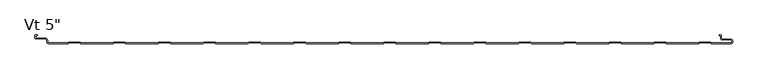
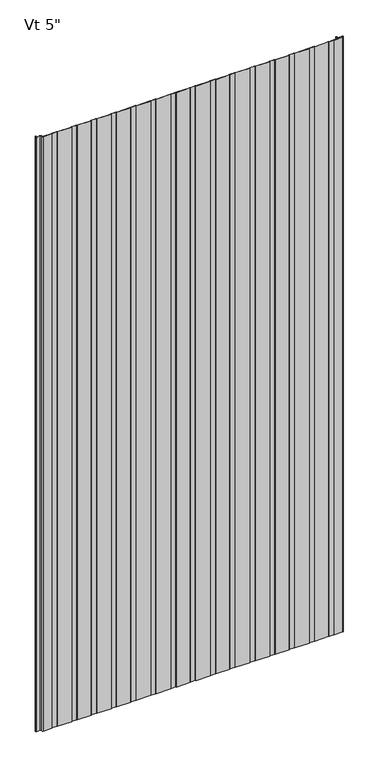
"""IFC4 building model written with IfcOpenShell, lengths in millimetres: plate geometry."""

from ifc_helpers import new_model, si_unit, frame, origin, place, context, project, spatial, polyline, circle_curve, source, transform, mapped, element, save
from ifc_brep_helpers import plane_surface, cylinder_surface, revolved_surface, advanced_brep


def plate_d803b4ad(model_context):
    return source(origin(), model_context, "Body", "AdvancedBrep", [
        advanced_brep(
        [(390.6883592, -127.0, 2400.0), (445.2678137, -127.0, 2400.0), (446.3403385, -125.8088405, 2400.0), (465.2384546, -125.8088405, 2400.0), (466.3109794, -127.0, 2400.0), (520.890434, -127.0, 2400.0), (521.9629588, -125.8088405, 2400.0), (540.8610749, -125.8088405, 2400.0), (541.9335958, -126.9999956, 2400.0), (574.5475652, -126.9999956, 2400.0), (577.5248337, -124.0227271, 2400.0), (577.5248337, -122.9806285, 2400.0), (574.5475652, -120.00336, 2400.0), (560.3591801, -120.00336, 2400.0), (558.7713036, -118.4154834, 2400.0), (558.7713036, -114.0950653, 2400.0), (557.1304042, -112.5065979, 2400.0), (554.7857432, -112.5065979, 2400.0), (554.7857432, -113.5060718, 2400.0), (557.1628365, -113.5060718, 2400.0), (557.7713037, -114.0950653, 2400.0), (557.7713037, -118.4154834, 2400.0), (560.3591801, -121.00336, 2400.0), (574.5475652, -121.00336, 2400.0), (576.5248337, -122.9806285, 2400.0), (576.5248337, -124.0227271, 2400.0), (574.5475652, -125.9999956, 2400.0), (542.3760351, -125.9999956, 2400.0), (541.3035142, -124.8088405, 2400.0), (521.5205195, -124.8088405, 2400.0), (520.4479947, -126.0, 2400.0), (466.7534187, -126.0, 2400.0), (465.6808939, -124.8088405, 2400.0), (445.8978992, -124.8088405, 2400.0), (444.8253744, -126.0, 2400.0), (391.1307985, -126.0, 2400.0), (390.0582736, -124.8088405, 2400.0), (370.275279, -124.8088405, 2400.0), (369.2027541, -126.0, 2400.0), (315.5081782, -126.0, 2400.0), (314.4356534, -124.8088405, 2400.0), (294.6526587, -124.8088405, 2400.0), (293.5801339, -126.0, 2400.0), (239.885558, -126.0, 2400.0), (238.8130331, -124.8088405, 2400.0), (219.0300384, -124.8088405, 2400.0), (217.9575136, -126.0, 2400.0), (164.2629377, -126.0, 2400.0), (163.1904129, -124.8088405, 2400.0), (143.4074182, -124.8088405, 2400.0), (142.3348933, -126.0, 2400.0), (88.6403174, -126.0, 2400.0), (87.5677926, -124.8088405, 2400.0), (67.7847979, -124.8088405, 2400.0), (66.7122731, -126.0, 2400.0), (13.0176972, -126.0, 2400.0), (11.9451723, -124.8088405, 2400.0), (-7.8378224, -124.8088405, 2400.0), (-8.9103472, -126.0, 2400.0), (-62.6049231, -126.0, 2400.0), (-63.6774479, -124.8088405, 2400.0), (-83.4604426, -124.8088405, 2400.0), (-84.5329675, -126.0, 2400.0), (-138.2275434, -126.0, 2400.0), (-139.3000682, -124.8088405, 2400.0), (-159.0830629, -124.8088405, 2400.0), (-160.1555877, -126.0, 2400.0), (-213.8501636, -126.0, 2400.0), (-214.9226885, -124.8088405, 2400.0), (-234.7056831, -124.8088405, 2400.0), (-235.778208, -126.0, 2400.0), (-289.4727839, -126.0, 2400.0), (-290.5453087, -124.8088405, 2400.0), (-310.3283034, -124.8088405, 2400.0), (-311.4008282, -126.0, 2400.0), (-365.0954042, -126.0, 2400.0), (-366.167929, -124.8088405, 2400.0), (-385.9509237, -124.8088405, 2400.0), (-387.0234485, -126.0, 2400.0), (-440.7180244, -126.0, 2400.0), (-441.7905493, -124.8088405, 2400.0), (-461.5735439, -124.8088405, 2400.0), (-462.6460688, -126.0, 2400.0), (-516.3406447, -126.0, 2400.0), (-517.4131695, -124.8088405, 2400.0), (-537.1961642, -124.8088405, 2400.0), (-538.268689, -126.0, 2400.0), (-570.43528, -126.0, 2400.0), (-572.4125474, -124.0227096, 2400.0), (-572.4125474, -121.7308258, 2400.0), (-576.3898159, -117.7535573, 2400.0), (-591.9862419, -117.7535573, 2400.0), (-592.5741185, -117.1656807, 2400.0), (-592.5741185, -114.094132, 2400.0), (-591.9862419, -113.5062555, 2400.0), (-589.6312064, -113.5062555, 2400.0), (-589.6312064, -112.5062555, 2400.0), (-591.9862419, -112.5062555, 2400.0), (-593.5741185, -114.094132, 2400.0), (-593.5741185, -117.1656807, 2400.0), (-591.9862419, -118.7535573, 2400.0), (-576.3898159, -118.7535573, 2400.0), (-573.4125474, -121.7308258, 2400.0), (-573.4125474, -124.0227096, 2400.0), (-570.4352807, -126.9999782, 2400.0), (-537.8262497, -127.0, 2400.0), (-536.7537249, -125.8088405, 2400.0), (-517.8556088, -125.8088405, 2400.0), (-516.783084, -127.0, 2400.0), (-462.2036295, -127.0, 2400.0), (-461.1311046, -125.8088405, 2400.0), (-442.2329886, -125.8088405, 2400.0), (-441.1604637, -127.0, 2400.0), (-386.5810092, -127.0, 2400.0), (-385.5084844, -125.8088405, 2400.0), (-366.6103683, -125.8088405, 2400.0), (-365.5378435, -127.0, 2400.0), (-310.9583889, -127.0, 2400.0), (-309.8858641, -125.8088405, 2400.0), (-290.987748, -125.8088405, 2400.0), (-289.9152232, -127.0, 2400.0), (-235.3357687, -127.0, 2400.0), (-234.2632438, -125.8088405, 2400.0), (-215.3651278, -125.8088405, 2400.0), (-214.2926029, -127.0, 2400.0), (-159.7131484, -127.0, 2400.0), (-158.6406236, -125.8088405, 2400.0), (-139.7425075, -125.8088405, 2400.0), (-138.6699827, -127.0, 2400.0), (-84.0905281, -127.0, 2400.0), (-83.0180033, -125.8088405, 2400.0), (-64.1198873, -125.8088405, 2400.0), (-63.0473624, -127.0, 2400.0), (-8.4679079, -127.0, 2400.0), (-7.395383, -125.8088405, 2400.0), (11.502733, -125.8088405, 2400.0), (12.5752578, -127.0, 2400.0), (67.1547124, -127.0, 2400.0), (68.2272372, -125.8088405, 2400.0), (87.1253533, -125.8088405, 2400.0), (88.1978781, -127.0, 2400.0), (142.7773327, -127.0, 2400.0), (143.8498575, -125.8088405, 2400.0), (162.7479735, -125.8088405, 2400.0), (163.8204984, -127.0, 2400.0), (218.3999529, -127.0, 2400.0), (219.4724778, -125.8088405, 2400.0), (238.3705938, -125.8088405, 2400.0), (239.4431186, -127.0, 2400.0), (294.0225732, -127.0, 2400.0), (295.095098, -125.8088405, 2400.0), (313.9932141, -125.8088405, 2400.0), (315.0657389, -127.0, 2400.0), (369.6451934, -127.0, 2400.0), (370.7177183, -125.8088405, 2400.0), (389.6158343, -125.8088405, 2400.0), (390.6883592, -127.0, 0.0), (389.6158343, -125.8088405, 0.0), (370.7177183, -125.8088405, 0.0), (369.6451934, -127.0, 0.0), (315.0657389, -127.0, 0.0), (313.9932141, -125.8088405, 0.0), (295.095098, -125.8088405, 0.0), (294.0225732, -127.0, 0.0), (239.4431186, -127.0, 0.0), (238.3705938, -125.8088405, 0.0), (219.4724778, -125.8088405, 0.0), (218.3999529, -127.0, 0.0), (163.8204984, -127.0, 0.0), (162.7479735, -125.8088405, 0.0), (143.8498575, -125.8088405, 0.0), (142.7773327, -127.0, 0.0), (88.1978781, -127.0, 0.0), (87.1253533, -125.8088405, 0.0), (68.2272372, -125.8088405, 0.0), (67.1547124, -127.0, 0.0), (12.5752578, -127.0, 0.0), (11.502733, -125.8088405, 0.0), (-7.395383, -125.8088405, 0.0), (-8.4679079, -127.0, 0.0), (-63.0473624, -127.0, 0.0), (-64.1198873, -125.8088405, 0.0), (-83.0180033, -125.8088405, 0.0), (-84.0905281, -127.0, 0.0), (-138.6699827, -127.0, 0.0), (-139.7425075, -125.8088405, 0.0), (-158.6406236, -125.8088405, 0.0), (-159.7131484, -127.0, 0.0), (-214.2926029, -127.0, 0.0), (-215.3651278, -125.8088405, 0.0), (-234.2632438, -125.8088405, 0.0), (-235.3357687, -127.0, 0.0), (-289.9152232, -127.0, 0.0), (-290.987748, -125.8088405, 0.0), (-309.8858641, -125.8088405, 0.0), (-310.9583889, -127.0, 0.0), (-365.5378435, -127.0, 0.0), (-366.6103683, -125.8088405, 0.0), (-385.5084844, -125.8088405, 0.0), (-386.5810092, -127.0, 0.0), (-441.1604637, -127.0, 0.0), (-442.2329886, -125.8088405, 0.0), (-461.1311046, -125.8088405, 0.0), (-462.2036295, -127.0, 0.0), (-516.783084, -127.0, 0.0), (-517.8556088, -125.8088405, 0.0), (-536.7537249, -125.8088405, 0.0), (-537.8262497, -127.0, 0.0), (-570.4352807, -127.0, 0.0), (-573.4125474, -124.0227096, 0.0), (-573.4125474, -121.7308258, 0.0), (-576.3898159, -118.7535573, 0.0), (-591.9862419, -118.7535573, 0.0), (-593.5741185, -117.1656807, 0.0), (-593.5741185, -114.094132, 0.0), (-591.9862419, -112.5062555, 0.0), (-589.6312064, -112.5062555, 0.0), (-589.6312064, -113.5062555, 0.0), (-591.9862419, -113.5062555, 0.0), (-592.5741185, -114.094132, 0.0), (-592.5741185, -117.1656807, 0.0), (-591.9862419, -117.7535573, 0.0), (-576.3898159, -117.7535573, 0.0), (-572.4125474, -121.7308258, 0.0), (-572.4125474, -124.0227096, 0.0), (-570.43528, -125.9999782, 0.0), (-538.268689, -126.0, 0.0), (-537.1961642, -124.8088405, 0.0), (-517.4131695, -124.8088405, 0.0), (-516.3406447, -126.0, 0.0), (-462.6460688, -126.0, 0.0), (-461.5735439, -124.8088405, 0.0), (-441.7905493, -124.8088405, 0.0), (-440.7180244, -126.0, 0.0), (-387.0234485, -126.0, 0.0), (-385.9509237, -124.8088405, 0.0), (-366.167929, -124.8088405, 0.0), (-365.0954042, -126.0, 0.0), (-311.4008282, -126.0, 0.0), (-310.3283034, -124.8088405, 0.0), (-290.5453087, -124.8088405, 0.0), (-289.4727839, -126.0, 0.0), (-235.778208, -126.0, 0.0), (-234.7056831, -124.8088405, 0.0), (-214.9226885, -124.8088405, 0.0), (-213.8501636, -126.0, 0.0), (-160.1555877, -126.0, 0.0), (-159.0830629, -124.8088405, 0.0), (-139.3000682, -124.8088405, 0.0), (-138.2275434, -126.0, 0.0), (-84.5329675, -126.0, 0.0), (-83.4604426, -124.8088405, 0.0), (-63.6774479, -124.8088405, 0.0), (-62.6049231, -126.0, 0.0), (-8.9103472, -126.0, 0.0), (-7.8378224, -124.8088405, 0.0), (11.9451723, -124.8088405, 0.0), (13.0176972, -126.0, 0.0), (66.7122731, -126.0, 0.0), (67.7847979, -124.8088405, 0.0), (87.5677926, -124.8088405, 0.0), (88.6403174, -126.0, 0.0), (142.3348933, -126.0, 0.0), (143.4074182, -124.8088405, 0.0), (163.1904129, -124.8088405, 0.0), (164.2629377, -126.0, 0.0), (217.9575136, -126.0, 0.0), (219.0300384, -124.8088405, 0.0), (238.8130331, -124.8088405, 0.0), (239.885558, -126.0, 0.0), (293.5801339, -126.0, 0.0), (294.6526587, -124.8088405, 0.0), (314.4356534, -124.8088405, 0.0), (315.5081782, -126.0, 0.0), (369.2027541, -126.0, 0.0), (370.275279, -124.8088405, 0.0), (390.0582736, -124.8088405, 0.0), (391.1307985, -126.0, 0.0), (444.8253744, -126.0, 0.0), (445.8978992, -124.8088405, 0.0), (465.6808939, -124.8088405, 0.0), (466.7534187, -126.0, 0.0), (520.4479947, -126.0, 0.0), (521.5205195, -124.8088405, 0.0), (541.3035142, -124.8088405, 0.0), (542.3760351, -125.9999956, 0.0), (574.5475652, -125.9999956, 0.0), (576.5248337, -124.0227271, 0.0), (576.5248337, -122.9806285, 0.0), (574.5475652, -121.00336, 0.0), (560.3591801, -121.00336, 0.0), (557.7713036, -118.4154834, 0.0), (557.7713037, -114.0950653, 0.0), (557.1628365, -113.5060718, 0.0), (554.7857432, -113.5060718, 0.0), (554.7857432, -112.5065979, 0.0), (557.1304042, -112.5065979, 0.0), (558.7713037, -114.0950653, 0.0), (558.7713036, -118.4154834, 0.0), (560.3591801, -120.00336, 0.0), (574.5475652, -120.00336, 0.0), (577.5248337, -122.9806285, 0.0), (577.5248337, -124.0227271, 0.0), (574.5475652, -126.9999956, 0.0), (541.9335958, -126.9999956, 0.0), (540.8610749, -125.8088405, 0.0), (521.9629588, -125.8088405, 0.0), (520.890434, -127.0, 0.0), (466.3109794, -127.0, 0.0), (465.2384546, -125.8088405, 0.0), (446.3403385, -125.8088405, 0.0), (445.2678137, -127.0, 0.0)],
        [
            (0, 1),
            (1, 2),
            (2, 3),
            (3, 4),
            (4, 5),
            (5, 6),
            (6, 7),
            (7, 8),
            (8, 9),
            (9, 10, circle_curve(frame((574.5475652, -124.0227271, 2400.0), z_axis=(0.0, 0.0, 1.0), x_axis=(-1.0, 0.0, 0.0)), 2.9772685)),
            (10, 11),
            (11, 12, circle_curve(frame((574.5475652, -122.9806285, 2400.0), z_axis=(0.0, 0.0, 1.0), x_axis=(-1.0, 0.0, 0.0)), 2.9772685)),
            (12, 13),
            (13, 14, circle_curve(frame((560.3591801, -118.4154834, 2400.0), z_axis=(0.0, 0.0, -1.0), x_axis=(-1.0, 0.0, 0.0)), 1.5878765)),
            (14, 15),
            (15, 16, circle_curve(frame((557.1819985, -114.0950653, 2400.0), z_axis=(0.0, 0.0, 1.0), x_axis=(-1.0, 0.0, 0.0)), 1.5893052)),
            (16, 17),
            (17, 18),
            (18, 19),
            (19, 20, circle_curve(frame((557.1819985, -114.0950653, 2400.0), z_axis=(0.0, 0.0, -1.0), x_axis=(-1.0, 0.0, 0.0)), 0.5893052)),
            (20, 21),
            (21, 22, circle_curve(frame((560.3591801, -118.4154834, 2400.0), z_axis=(0.0, 0.0, 1.0), x_axis=(-1.0, 0.0, 0.0)), 2.5878765)),
            (22, 23),
            (23, 24, circle_curve(frame((574.5475652, -122.9806285, 2400.0), z_axis=(0.0, 0.0, -1.0), x_axis=(-1.0, 0.0, 0.0)), 1.9772685)),
            (24, 25),
            (25, 26, circle_curve(frame((574.5475652, -124.0227271, 2400.0), z_axis=(0.0, 0.0, -1.0), x_axis=(-1.0, 0.0, 0.0)), 1.9772685)),
            (26, 27),
            (27, 28),
            (28, 29),
            (29, 30),
            (30, 31),
            (31, 32),
            (32, 33),
            (33, 34),
            (34, 35),
            (35, 36),
            (36, 37),
            (37, 38),
            (38, 39),
            (39, 40),
            (40, 41),
            (41, 42),
            (42, 43),
            (43, 44),
            (44, 45),
            (45, 46),
            (46, 47),
            (47, 48),
            (48, 49),
            (49, 50),
            (50, 51),
            (51, 52),
            (52, 53),
            (53, 54),
            (54, 55),
            (55, 56),
            (56, 57),
            (57, 58),
            (58, 59),
            (59, 60),
            (60, 61),
            (61, 62),
            (62, 63),
            (63, 64),
            (64, 65),
            (65, 66),
            (66, 67),
            (67, 68),
            (68, 69),
            (69, 70),
            (70, 71),
            (71, 72),
            (72, 73),
            (73, 74),
            (74, 75),
            (75, 76),
            (76, 77),
            (77, 78),
            (78, 79),
            (79, 80),
            (80, 81),
            (81, 82),
            (82, 83),
            (83, 84),
            (84, 85),
            (85, 86),
            (86, 87),
            (87, 88, circle_curve(frame((-570.4352788, -124.0227096, 2400.0), z_axis=(0.0, 0.0, -1.0), x_axis=(-1.0, 0.0, 0.0)), 1.9772685)),
            (88, 89),
            (89, 90, circle_curve(frame((-576.3898159, -121.7308258, 2400.0), z_axis=(0.0, 0.0, 1.0), x_axis=(-1.0, 0.0, 0.0)), 3.9772685)),
            (90, 91),
            (91, 92, circle_curve(frame((-591.9862419, -117.1656807, 2400.0), z_axis=(0.0, 0.0, -1.0), x_axis=(-1.0, 0.0, 0.0)), 0.5878765)),
            (92, 93),
            (93, 94, circle_curve(frame((-591.9862419, -114.094132, 2400.0), z_axis=(0.0, 0.0, -1.0), x_axis=(-1.0, 0.0, 0.0)), 0.5878765)),
            (94, 95),
            (95, 96),
            (96, 97),
            (97, 98, circle_curve(frame((-591.9862419, -114.094132, 2400.0), z_axis=(0.0, 0.0, 1.0), x_axis=(-1.0, 0.0, 0.0)), 1.5878765)),
            (98, 99),
            (99, 100, circle_curve(frame((-591.9862419, -117.1656807, 2400.0), z_axis=(0.0, 0.0, 1.0), x_axis=(-1.0, 0.0, 0.0)), 1.5878765)),
            (100, 101),
            (101, 102, circle_curve(frame((-576.3898159, -121.7308258, 2400.0), z_axis=(0.0, 0.0, -1.0), x_axis=(-1.0, 0.0, 0.0)), 2.9772685)),
            (102, 103),
            (103, 104, circle_curve(frame((-570.4352789, -124.0227096, 2400.0), z_axis=(0.0, 0.0, 1.0), x_axis=(-1.0, 0.0, 0.0)), 2.9772685)),
            (104, 105),
            (105, 106),
            (106, 107),
            (107, 108),
            (108, 109),
            (109, 110),
            (110, 111),
            (111, 112),
            (112, 113),
            (113, 114),
            (114, 115),
            (115, 116),
            (116, 117),
            (117, 118),
            (118, 119),
            (119, 120),
            (120, 121),
            (121, 122),
            (122, 123),
            (123, 124),
            (124, 125),
            (125, 126),
            (126, 127),
            (127, 128),
            (128, 129),
            (129, 130),
            (130, 131),
            (131, 132),
            (132, 133),
            (133, 134),
            (134, 135),
            (135, 136),
            (136, 137),
            (137, 138),
            (138, 139),
            (139, 140),
            (140, 141),
            (141, 142),
            (142, 143),
            (143, 144),
            (144, 145),
            (145, 146),
            (146, 147),
            (147, 148),
            (148, 149),
            (149, 150),
            (150, 151),
            (151, 152),
            (152, 153),
            (153, 154),
            (154, 155),
            (155, 0),
            (156, 157),
            (157, 158),
            (158, 159),
            (159, 160),
            (160, 161),
            (161, 162),
            (162, 163),
            (163, 164),
            (164, 165),
            (165, 166),
            (166, 167),
            (167, 168),
            (168, 169),
            (169, 170),
            (170, 171),
            (171, 172),
            (172, 173),
            (173, 174),
            (174, 175),
            (175, 176),
            (176, 177),
            (177, 178),
            (178, 179),
            (179, 180),
            (180, 181),
            (181, 182),
            (182, 183),
            (183, 184),
            (184, 185),
            (185, 186),
            (186, 187),
            (187, 188),
            (188, 189),
            (189, 190),
            (190, 191),
            (191, 192),
            (192, 193),
            (193, 194),
            (194, 195),
            (195, 196),
            (196, 197),
            (197, 198),
            (198, 199),
            (199, 200),
            (200, 201),
            (201, 202),
            (202, 203),
            (203, 204),
            (204, 205),
            (205, 206),
            (206, 207),
            (207, 208),
            (208, 209, circle_curve(frame((-570.4352789, -124.0227096, 0.0), z_axis=(0.0, 0.0, -1.0), x_axis=(-1.0, 0.0, 0.0)), 2.9772685)),
            (209, 210),
            (210, 211, circle_curve(frame((-576.3898159, -121.7308258, 0.0), z_axis=(0.0, 0.0, 1.0), x_axis=(-1.0, 0.0, 0.0)), 2.9772685)),
            (211, 212),
            (212, 213, circle_curve(frame((-591.9862419, -117.1656807, 0.0), z_axis=(0.0, 0.0, -1.0), x_axis=(-1.0, 0.0, 0.0)), 1.5878765)),
            (213, 214),
            (214, 215, circle_curve(frame((-591.9862419, -114.094132, 0.0), z_axis=(0.0, 0.0, -1.0), x_axis=(-1.0, 0.0, 0.0)), 1.5878765)),
            (215, 216),
            (216, 217),
            (217, 218),
            (218, 219, circle_curve(frame((-591.9862419, -114.094132, 0.0), z_axis=(0.0, 0.0, 1.0), x_axis=(-1.0, 0.0, 0.0)), 0.5878765)),
            (219, 220),
            (220, 221, circle_curve(frame((-591.9862419, -117.1656807, 0.0), z_axis=(0.0, 0.0, 1.0), x_axis=(-1.0, 0.0, 0.0)), 0.5878765)),
            (221, 222),
            (222, 223, circle_curve(frame((-576.3898159, -121.7308258, 0.0), z_axis=(0.0, 0.0, -1.0), x_axis=(-1.0, 0.0, 0.0)), 3.9772685)),
            (223, 224),
            (224, 225, circle_curve(frame((-570.4352788, -124.0227096, 0.0), z_axis=(0.0, 0.0, 1.0), x_axis=(-1.0, 0.0, 0.0)), 1.9772685)),
            (225, 226),
            (226, 227),
            (227, 228),
            (228, 229),
            (229, 230),
            (230, 231),
            (231, 232),
            (232, 233),
            (233, 234),
            (234, 235),
            (235, 236),
            (236, 237),
            (237, 238),
            (238, 239),
            (239, 240),
            (240, 241),
            (241, 242),
            (242, 243),
            (243, 244),
            (244, 245),
            (245, 246),
            (246, 247),
            (247, 248),
            (248, 249),
            (249, 250),
            (250, 251),
            (251, 252),
            (252, 253),
            (253, 254),
            (254, 255),
            (255, 256),
            (256, 257),
            (257, 258),
            (258, 259),
            (259, 260),
            (260, 261),
            (261, 262),
            (262, 263),
            (263, 264),
            (264, 265),
            (265, 266),
            (266, 267),
            (267, 268),
            (268, 269),
            (269, 270),
            (270, 271),
            (271, 272),
            (272, 273),
            (273, 274),
            (274, 275),
            (275, 276),
            (276, 277),
            (277, 278),
            (278, 279),
            (279, 280),
            (280, 281),
            (281, 282),
            (282, 283),
            (283, 284),
            (284, 285),
            (285, 286),
            (286, 287, circle_curve(frame((574.5475652, -124.0227271, 0.0), z_axis=(0.0, 0.0, 1.0), x_axis=(-1.0, 0.0, 0.0)), 1.9772685)),
            (287, 288),
            (288, 289, circle_curve(frame((574.5475652, -122.9806285, 0.0), z_axis=(0.0, 0.0, 1.0), x_axis=(-1.0, 0.0, 0.0)), 1.9772685)),
            (289, 290),
            (290, 291, circle_curve(frame((560.3591801, -118.4154834, 0.0), z_axis=(0.0, 0.0, -1.0), x_axis=(-1.0, 0.0, 0.0)), 2.5878765)),
            (291, 292),
            (292, 293, circle_curve(frame((557.1819985, -114.0950653, 0.0), z_axis=(0.0, 0.0, 1.0), x_axis=(-1.0, 0.0, 0.0)), 0.5893052)),
            (293, 294),
            (294, 295),
            (295, 296),
            (296, 297, circle_curve(frame((557.1819985, -114.0950653, 0.0), z_axis=(0.0, 0.0, -1.0), x_axis=(-1.0, 0.0, 0.0)), 1.5893052)),
            (297, 298),
            (298, 299, circle_curve(frame((560.3591801, -118.4154834, 0.0), z_axis=(0.0, 0.0, 1.0), x_axis=(-1.0, 0.0, 0.0)), 1.5878765)),
            (299, 300),
            (300, 301, circle_curve(frame((574.5475652, -122.9806285, 0.0), z_axis=(0.0, 0.0, -1.0), x_axis=(-1.0, 0.0, 0.0)), 2.9772685)),
            (301, 302),
            (302, 303, circle_curve(frame((574.5475652, -124.0227271, 0.0), z_axis=(0.0, 0.0, -1.0), x_axis=(-1.0, 0.0, 0.0)), 2.9772685)),
            (303, 304),
            (304, 305),
            (305, 306),
            (306, 307),
            (307, 308),
            (308, 309),
            (309, 310),
            (310, 311),
            (311, 156),
            (0, 156),
            (311, 1),
            (34, 278),
            (277, 35),
            (64, 248),
            (247, 65),
            (124, 188),
            (187, 125),
            (66, 246),
            (245, 67),
            (123, 189),
            (244, 68),
            (121, 191),
            (190, 122),
            (69, 243),
            (242, 70),
            (120, 192),
            (241, 71),
            (119, 193),
            (240, 72),
            (137, 175),
            (174, 138),
            (53, 259),
            (258, 54),
            (173, 139),
            (52, 260),
            (136, 176),
            (257, 55),
            (135, 177),
            (256, 56),
            (133, 179),
            (178, 134),
            (57, 255),
            (254, 58),
            (132, 180),
            (253, 59),
            (131, 181),
            (252, 60),
            (129, 183),
            (182, 130),
            (61, 251),
            (250, 62),
            (128, 184),
            (249, 63),
            (127, 185),
            (186, 126),
            (24, 288),
            (287, 25),
            (10, 302),
            (301, 11),
            (286, 26),
            (103, 209),
            (208, 104),
            (207, 105),
            (91, 221),
            (220, 92),
            (4, 308),
            (307, 5),
            (30, 282),
            (281, 31),
            (7, 305),
            (304, 8),
            (27, 285),
            (284, 28),
            (306, 6),
            (29, 283),
            (23, 289),
            (22, 290),
            (21, 291),
            (20, 292),
            (19, 293),
            (18, 294),
            (17, 295),
            (16, 296),
            (15, 297),
            (14, 298),
            (13, 299),
            (12, 300),
            (9, 303),
            (101, 211),
            (210, 102),
            (99, 213),
            (212, 100),
            (97, 215),
            (214, 98),
            (95, 217),
            (216, 96),
            (93, 219),
            (218, 94),
            (90, 222),
            (88, 224),
            (223, 89),
            (86, 226),
            (225, 87),
            (106, 206),
            (205, 107),
            (85, 227),
            (84, 228),
            (204, 108),
            (203, 109),
            (82, 230),
            (229, 83),
            (110, 202),
            (201, 111),
            (81, 231),
            (80, 232),
            (200, 112),
            (199, 113),
            (78, 234),
            (233, 79),
            (114, 198),
            (197, 115),
            (77, 235),
            (76, 236),
            (196, 116),
            (195, 117),
            (74, 238),
            (237, 75),
            (118, 194),
            (73, 239),
            (172, 140),
            (171, 141),
            (50, 262),
            (261, 51),
            (142, 170),
            (169, 143),
            (49, 263),
            (48, 264),
            (168, 144),
            (167, 145),
            (46, 266),
            (265, 47),
            (146, 166),
            (165, 147),
            (45, 267),
            (44, 268),
            (164, 148),
            (163, 149),
            (42, 270),
            (269, 43),
            (150, 162),
            (161, 151),
            (41, 271),
            (40, 272),
            (160, 152),
            (159, 153),
            (38, 274),
            (273, 39),
            (154, 158),
            (157, 155),
            (37, 275),
            (36, 276),
            (2, 310),
            (309, 3),
            (32, 280),
            (279, 33),
        ],
        [
            plane_surface(frame((0.0, -127.0, 2400.0), z_axis=(0.0, 0.0, 1.0), x_axis=(0.0, -1.0, 0.0))),
            plane_surface(frame((0.0, -127.0, 0.0), z_axis=(0.0, 0.0, -1.0), x_axis=(0.0, -1.0, 0.0))),
            plane_surface(frame((445.2678137, -127.0, 2400.0), z_axis=(0.0, -1.0, 0.0), x_axis=(0.0, 0.0, -1.0))),
            plane_surface(frame((391.1307985, -126.0, 2400.0), z_axis=(0.0, 1.0, 0.0), x_axis=(0.0, 0.0, -1.0))),
            plane_surface(frame((-159.0830629, -124.8088405, 2400.0), z_axis=(0.0, 1.0, 0.0), x_axis=(0.0, 0.0, -1.0))),
            plane_surface(frame((-159.7131484, -127.0, 2400.0), z_axis=(0.0, -1.0, 0.0), x_axis=(0.0, 0.0, -1.0))),
            plane_surface(frame((-213.8501636, -126.0, 2400.0), z_axis=(0.0, 1.0, 0.0), x_axis=(0.0, 0.0, -1.0))),
            plane_surface(frame((-214.2926029, -127.0, 2400.0), z_axis=(-0.7431448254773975, -0.6691306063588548, 0.0), x_axis=(0.0, 0.0, -1.0))),
            plane_surface(frame((-214.9226885, -124.8088405, 2400.0), z_axis=(0.7431448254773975, 0.6691306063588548, 0.0), x_axis=(0.0, 0.0, -1.0))),
            plane_surface(frame((-234.2632438, -125.8088405, 2400.0), z_axis=(0.7431448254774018, -0.66913060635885, 0.0), x_axis=(0.0, 0.0, -1.0))),
            plane_surface(frame((-235.778208, -126.0, 2400.0), z_axis=(-0.7431448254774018, 0.66913060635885, 0.0), x_axis=(0.0, 0.0, -1.0))),
            plane_surface(frame((-215.3651278, -125.8088405, 2400.0), z_axis=(0.0, -1.0, 0.0), x_axis=(0.0, 0.0, -1.0))),
            plane_surface(frame((-234.7056831, -124.8088405, 2400.0), z_axis=(0.0, 1.0, 0.0), x_axis=(0.0, 0.0, -1.0))),
            plane_surface(frame((-235.3357687, -127.0, 2400.0), z_axis=(0.0, -1.0, 0.0), x_axis=(0.0, 0.0, -1.0))),
            plane_surface(frame((-289.4727839, -126.0, 2400.0), z_axis=(0.0, 1.0, 0.0), x_axis=(0.0, 0.0, -1.0))),
            plane_surface(frame((-289.9152232, -127.0, 2400.0), z_axis=(-0.7431448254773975, -0.6691306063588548, 0.0), x_axis=(0.0, 0.0, -1.0))),
            plane_surface(frame((-290.5453087, -124.8088405, 2400.0), z_axis=(0.7431448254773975, 0.6691306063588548, 0.0), x_axis=(0.0, 0.0, -1.0))),
            plane_surface(frame((68.2272372, -125.8088405, 2400.0), z_axis=(0.7431448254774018, -0.66913060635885, 0.0), x_axis=(0.0, 0.0, -1.0))),
            plane_surface(frame((66.7122731, -126.0, 2400.0), z_axis=(-0.7431448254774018, 0.66913060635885, 0.0), x_axis=(0.0, 0.0, -1.0))),
            plane_surface(frame((87.1253533, -125.8088405, 2400.0), z_axis=(0.0, -1.0, 0.0), x_axis=(0.0, 0.0, -1.0))),
            plane_surface(frame((67.7847979, -124.8088405, 2400.0), z_axis=(0.0, 1.0, 0.0), x_axis=(0.0, 0.0, -1.0))),
            plane_surface(frame((67.1547124, -127.0, 2400.0), z_axis=(0.0, -1.0, 0.0), x_axis=(0.0, 0.0, -1.0))),
            plane_surface(frame((13.0176972, -126.0, 2400.0), z_axis=(0.0, 1.0, 0.0), x_axis=(0.0, 0.0, -1.0))),
            plane_surface(frame((12.5752578, -127.0, 2400.0), z_axis=(-0.7431448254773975, -0.6691306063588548, 0.0), x_axis=(0.0, 0.0, -1.0))),
            plane_surface(frame((11.9451723, -124.8088405, 2400.0), z_axis=(0.7431448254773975, 0.6691306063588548, 0.0), x_axis=(0.0, 0.0, -1.0))),
            plane_surface(frame((-7.395383, -125.8088405, 2400.0), z_axis=(0.7431448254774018, -0.66913060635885, 0.0), x_axis=(0.0, 0.0, -1.0))),
            plane_surface(frame((-8.9103472, -126.0, 2400.0), z_axis=(-0.7431448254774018, 0.66913060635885, 0.0), x_axis=(0.0, 0.0, -1.0))),
            plane_surface(frame((11.502733, -125.8088405, 2400.0), z_axis=(0.0, -1.0, 0.0), x_axis=(0.0, 0.0, -1.0))),
            plane_surface(frame((-7.8378224, -124.8088405, 2400.0), z_axis=(0.0, 1.0, 0.0), x_axis=(0.0, 0.0, -1.0))),
            plane_surface(frame((-8.4679079, -127.0, 2400.0), z_axis=(0.0, -1.0, 0.0), x_axis=(0.0, 0.0, -1.0))),
            plane_surface(frame((-62.6049231, -126.0, 2400.0), z_axis=(0.0, 1.0, 0.0), x_axis=(0.0, 0.0, -1.0))),
            plane_surface(frame((-63.0473624, -127.0, 2400.0), z_axis=(-0.7431448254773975, -0.6691306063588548, 0.0), x_axis=(0.0, 0.0, -1.0))),
            plane_surface(frame((-63.6774479, -124.8088405, 2400.0), z_axis=(0.7431448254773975, 0.6691306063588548, 0.0), x_axis=(0.0, 0.0, -1.0))),
            plane_surface(frame((-83.0180033, -125.8088405, 2400.0), z_axis=(0.7431448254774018, -0.66913060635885, 0.0), x_axis=(0.0, 0.0, -1.0))),
            plane_surface(frame((-84.5329675, -126.0, 2400.0), z_axis=(-0.7431448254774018, 0.66913060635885, 0.0), x_axis=(0.0, 0.0, -1.0))),
            plane_surface(frame((-64.1198873, -125.8088405, 2400.0), z_axis=(0.0, -1.0, 0.0), x_axis=(0.0, 0.0, -1.0))),
            plane_surface(frame((-83.4604426, -124.8088405, 2400.0), z_axis=(0.0, 1.0, 0.0), x_axis=(0.0, 0.0, -1.0))),
            plane_surface(frame((-84.0905281, -127.0, 2400.0), z_axis=(0.0, -1.0, 0.0), x_axis=(0.0, 0.0, -1.0))),
            plane_surface(frame((-138.2275434, -126.0, 2400.0), z_axis=(0.0, 1.0, 0.0), x_axis=(0.0, 0.0, -1.0))),
            plane_surface(frame((-138.6699827, -127.0, 2400.0), z_axis=(-0.7431448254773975, -0.6691306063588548, 0.0), x_axis=(0.0, 0.0, -1.0))),
            plane_surface(frame((-139.3000682, -124.8088405, 2400.0), z_axis=(0.7431448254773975, 0.6691306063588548, 0.0), x_axis=(0.0, 0.0, -1.0))),
            plane_surface(frame((-158.6406236, -125.8088405, 2400.0), z_axis=(0.7431448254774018, -0.66913060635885, 0.0), x_axis=(0.0, 0.0, -1.0))),
            plane_surface(frame((-160.1555877, -126.0, 2400.0), z_axis=(-0.7431448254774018, 0.66913060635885, 0.0), x_axis=(0.0, 0.0, -1.0))),
            plane_surface(frame((-139.7425075, -125.8088405, 2400.0), z_axis=(0.0, -1.0, 0.0), x_axis=(0.0, 0.0, -1.0))),
            plane_surface(frame((576.5248337, -124.0227271, 2400.0), z_axis=(-1.0, 0.0, 0.0), x_axis=(0.0, 0.0, -1.0))),
            plane_surface(frame((577.5248337, -122.9806285, 2400.0), z_axis=(1.0, 0.0, 0.0), x_axis=(0.0, 0.0, -1.0))),
            revolved_surface(polyline([(572.5702967, -124.0227271, 0.0), (572.5702967, -124.0227271, 2400.0)]), (574.5475652, -124.0227271, 2400.0), (0.0, 0.0, -1.0)),
            cylinder_surface(frame((-570.4352789, -124.0227096, 2400.0), z_axis=(0.0, 0.0, 1.0), x_axis=(-1.0, 0.0, 0.0)), 2.9772685),
            plane_surface(frame((-537.8262497, -127.0, 2400.0), z_axis=(0.0, -1.0, 0.0), x_axis=(0.0, 0.0, -1.0))),
            revolved_surface(polyline([(-592.5741184, -117.1656807, 0.0), (-592.5741184, -117.1656807, 2400.0)]), (-591.9862419, -117.1656807, 2400.0), (0.0, 0.0, -1.0)),
            plane_surface(frame((520.890434, -127.0, 2400.0), z_axis=(0.0, -1.0, 0.0), x_axis=(0.0, 0.0, -1.0))),
            plane_surface(frame((466.7534187, -126.0, 2400.0), z_axis=(0.0, 1.0, 0.0), x_axis=(0.0, 0.0, -1.0))),
            plane_surface(frame((541.9335958, -126.9999956, 2400.0), z_axis=(-0.7431448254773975, -0.6691306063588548, 0.0), x_axis=(0.0, 0.0, -1.0))),
            plane_surface(frame((541.3035142, -124.8088405, 2400.0), z_axis=(0.7431448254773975, 0.6691306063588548, 0.0), x_axis=(0.0, 0.0, -1.0))),
            plane_surface(frame((521.9629588, -125.8088405, 2400.0), z_axis=(0.7431448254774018, -0.66913060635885, 0.0), x_axis=(0.0, 0.0, -1.0))),
            plane_surface(frame((520.4479947, -126.0, 2400.0), z_axis=(-0.7431448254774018, 0.66913060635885, 0.0), x_axis=(0.0, 0.0, -1.0))),
            plane_surface(frame((540.8610749, -125.8088405, 2400.0), z_axis=(0.0, -1.0, 0.0), x_axis=(0.0, 0.0, -1.0))),
            plane_surface(frame((521.5205195, -124.8088405, 2400.0), z_axis=(0.0, 1.0, 0.0), x_axis=(0.0, 0.0, -1.0))),
            plane_surface(frame((542.3760351, -125.9999956, 2400.0), z_axis=(0.0, 1.0, 0.0), x_axis=(0.0, 0.0, -1.0))),
            revolved_surface(polyline([(572.5702967, -122.9806285, 0.0), (572.5702967, -122.9806285, 2400.0)]), (574.5475652, -122.9806285, 2400.0), (0.0, 0.0, -1.0)),
            plane_surface(frame((574.5475652, -121.00336, 2400.0), z_axis=(0.0, -1.0, 0.0), x_axis=(0.0, 0.0, -1.0))),
            cylinder_surface(frame((560.3591801, -118.4154834, 2400.0), z_axis=(0.0, 0.0, 1.0), x_axis=(-1.0, 0.0, 0.0)), 2.5878765),
            plane_surface(frame((557.7713037, -118.4154834, 2400.0), z_axis=(-1.0, 0.0, 0.0), x_axis=(0.0, 0.0, -1.0))),
            revolved_surface(polyline([(556.5926933, -114.0950653, 0.0), (556.5926933, -114.0950653, 2400.0)]), (557.1819985, -114.0950653, 2400.0), (0.0, 0.0, -1.0)),
            plane_surface(frame((557.1628365, -113.5060718, 2400.0), z_axis=(0.0, -1.0, 0.0), x_axis=(0.0, 0.0, -1.0))),
            plane_surface(frame((554.7857432, -113.5060718, 2400.0), z_axis=(-1.0, 0.0, 0.0), x_axis=(0.0, 0.0, -1.0))),
            plane_surface(frame((554.7857432, -112.5065979, 2400.0), z_axis=(0.0, 1.0, 0.0), x_axis=(0.0, 0.0, -1.0))),
            cylinder_surface(frame((557.1819985, -114.0950653, 2400.0), z_axis=(0.0, 0.0, 1.0), x_axis=(-1.0, 0.0, 0.0)), 1.5893052),
            plane_surface(frame((558.7713036, -114.0950653, 2400.0), z_axis=(1.0, 0.0, 0.0), x_axis=(0.0, 0.0, -1.0))),
            revolved_surface(polyline([(558.7713036, -118.4154834, 0.0), (558.7713036, -118.4154834, 2400.0)]), (560.3591801, -118.4154834, 2400.0), (0.0, 0.0, -1.0)),
            plane_surface(frame((560.3591801, -120.00336, 2400.0), z_axis=(0.0, 1.0, 0.0), x_axis=(0.0, 0.0, -1.0))),
            cylinder_surface(frame((574.5475652, -122.9806285, 2400.0), z_axis=(0.0, 0.0, 1.0), x_axis=(-1.0, 0.0, 0.0)), 2.9772685),
            cylinder_surface(frame((574.5475652, -124.0227271, 2400.0), z_axis=(0.0, 0.0, 1.0), x_axis=(-1.0, 0.0, 0.0)), 2.9772685),
            plane_surface(frame((574.5475652, -126.9999956, 2400.0), z_axis=(0.0, -1.0, 0.0), x_axis=(0.0, 0.0, -1.0))),
            revolved_surface(polyline([(-579.3670844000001, -121.7308258, 0.0), (-579.3670844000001, -121.7308258, 2400.0)]), (-576.3898159, -121.7308258, 2400.0), (0.0, 0.0, -1.0)),
            cylinder_surface(frame((-591.9862419, -117.1656807, 2400.0), z_axis=(0.0, 0.0, 1.0), x_axis=(-1.0, 0.0, 0.0)), 1.5878765),
            plane_surface(frame((-576.3898159, -118.7535573, 2400.0), z_axis=(0.0, -1.0, 0.0), x_axis=(0.0, 0.0, -1.0))),
            plane_surface(frame((-573.4125474, -124.0227096, 2400.0), z_axis=(-1.0, 0.0, 0.0), x_axis=(0.0, 0.0, -1.0))),
            cylinder_surface(frame((-591.9862419, -114.094132, 2400.0), z_axis=(0.0, 0.0, 1.0), x_axis=(-1.0, 0.0, 0.0)), 1.5878765),
            plane_surface(frame((-589.6312064, -112.5062555, 2400.0), z_axis=(1.0, 0.0, 0.0), x_axis=(0.0, 0.0, -1.0))),
            plane_surface(frame((-591.9862419, -112.5062555, 2400.0), z_axis=(0.0, 1.0, 0.0), x_axis=(0.0, 0.0, -1.0))),
            plane_surface(frame((-593.5741185, -117.1656807, 2400.0), z_axis=(-1.0, 0.0, 0.0), x_axis=(0.0, 0.0, -1.0))),
            revolved_surface(polyline([(-592.5741184, -114.094132, 0.0), (-592.5741184, -114.094132, 2400.0)]), (-591.9862419, -114.094132, 2400.0), (0.0, 0.0, -1.0)),
            plane_surface(frame((-591.9862419, -117.7535573, 2400.0), z_axis=(0.0, 1.0, 0.0), x_axis=(0.0, 0.0, -1.0))),
            plane_surface(frame((-592.5741185, -114.094132, 2400.0), z_axis=(1.0, 0.0, 0.0), x_axis=(0.0, 0.0, -1.0))),
            plane_surface(frame((-589.6312064, -113.5062555, 2400.0), z_axis=(0.0, -1.0, 0.0), x_axis=(0.0, 0.0, -1.0))),
            plane_surface(frame((-572.4125474, -121.7308258, 2400.0), z_axis=(1.0, 0.0, 0.0), x_axis=(0.0, 0.0, -1.0))),
            plane_surface(frame((-570.43528, -126.0, 2400.0), z_axis=(0.0, 1.0, 0.0), x_axis=(0.0, 0.0, -1.0))),
            revolved_surface(polyline([(-572.4125473, -124.0227096, 0.0), (-572.4125473, -124.0227096, 2400.0)]), (-570.4352788, -124.0227096, 2400.0), (0.0, 0.0, -1.0)),
            cylinder_surface(frame((-576.3898159, -121.7308258, 2400.0), z_axis=(0.0, 0.0, 1.0), x_axis=(-1.0, 0.0, 0.0)), 3.9772685),
            plane_surface(frame((-517.8556088, -125.8088405, 2400.0), z_axis=(0.0, -1.0, 0.0), x_axis=(0.0, 0.0, -1.0))),
            plane_surface(frame((-536.7537249, -125.8088405, 2400.0), z_axis=(0.7431448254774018, -0.66913060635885, 0.0), x_axis=(0.0, 0.0, -1.0))),
            plane_surface(frame((-538.268689, -126.0, 2400.0), z_axis=(-0.7431448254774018, 0.66913060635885, 0.0), x_axis=(0.0, 0.0, -1.0))),
            plane_surface(frame((-537.1961642, -124.8088405, 2400.0), z_axis=(0.0, 1.0, 0.0), x_axis=(0.0, 0.0, -1.0))),
            plane_surface(frame((-516.783084, -127.0, 2400.0), z_axis=(-0.7431448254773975, -0.6691306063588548, 0.0), x_axis=(0.0, 0.0, -1.0))),
            plane_surface(frame((-462.2036295, -127.0, 2400.0), z_axis=(0.0, -1.0, 0.0), x_axis=(0.0, 0.0, -1.0))),
            plane_surface(frame((-516.3406447, -126.0, 2400.0), z_axis=(0.0, 1.0, 0.0), x_axis=(0.0, 0.0, -1.0))),
            plane_surface(frame((-517.4131695, -124.8088405, 2400.0), z_axis=(0.7431448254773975, 0.6691306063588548, 0.0), x_axis=(0.0, 0.0, -1.0))),
            plane_surface(frame((-442.2329886, -125.8088405, 2400.0), z_axis=(0.0, -1.0, 0.0), x_axis=(0.0, 0.0, -1.0))),
            plane_surface(frame((-461.1311046, -125.8088405, 2400.0), z_axis=(0.7431448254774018, -0.66913060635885, 0.0), x_axis=(0.0, 0.0, -1.0))),
            plane_surface(frame((-462.6460688, -126.0, 2400.0), z_axis=(-0.7431448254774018, 0.66913060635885, 0.0), x_axis=(0.0, 0.0, -1.0))),
            plane_surface(frame((-461.5735439, -124.8088405, 2400.0), z_axis=(0.0, 1.0, 0.0), x_axis=(0.0, 0.0, -1.0))),
            plane_surface(frame((-441.1604637, -127.0, 2400.0), z_axis=(-0.7431448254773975, -0.6691306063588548, 0.0), x_axis=(0.0, 0.0, -1.0))),
            plane_surface(frame((-386.5810092, -127.0, 2400.0), z_axis=(0.0, -1.0, 0.0), x_axis=(0.0, 0.0, -1.0))),
            plane_surface(frame((-440.7180244, -126.0, 2400.0), z_axis=(0.0, 1.0, 0.0), x_axis=(0.0, 0.0, -1.0))),
            plane_surface(frame((-441.7905493, -124.8088405, 2400.0), z_axis=(0.7431448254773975, 0.6691306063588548, 0.0), x_axis=(0.0, 0.0, -1.0))),
            plane_surface(frame((-366.6103683, -125.8088405, 2400.0), z_axis=(0.0, -1.0, 0.0), x_axis=(0.0, 0.0, -1.0))),
            plane_surface(frame((-385.5084844, -125.8088405, 2400.0), z_axis=(0.7431448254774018, -0.66913060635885, 0.0), x_axis=(0.0, 0.0, -1.0))),
            plane_surface(frame((-387.0234485, -126.0, 2400.0), z_axis=(-0.7431448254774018, 0.66913060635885, 0.0), x_axis=(0.0, 0.0, -1.0))),
            plane_surface(frame((-385.9509237, -124.8088405, 2400.0), z_axis=(0.0, 1.0, 0.0), x_axis=(0.0, 0.0, -1.0))),
            plane_surface(frame((-365.5378435, -127.0, 2400.0), z_axis=(-0.7431448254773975, -0.6691306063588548, 0.0), x_axis=(0.0, 0.0, -1.0))),
            plane_surface(frame((-310.9583889, -127.0, 2400.0), z_axis=(0.0, -1.0, 0.0), x_axis=(0.0, 0.0, -1.0))),
            plane_surface(frame((-365.0954042, -126.0, 2400.0), z_axis=(0.0, 1.0, 0.0), x_axis=(0.0, 0.0, -1.0))),
            plane_surface(frame((-366.167929, -124.8088405, 2400.0), z_axis=(0.7431448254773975, 0.6691306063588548, 0.0), x_axis=(0.0, 0.0, -1.0))),
            plane_surface(frame((-290.987748, -125.8088405, 2400.0), z_axis=(0.0, -1.0, 0.0), x_axis=(0.0, 0.0, -1.0))),
            plane_surface(frame((-309.8858641, -125.8088405, 2400.0), z_axis=(0.7431448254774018, -0.66913060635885, 0.0), x_axis=(0.0, 0.0, -1.0))),
            plane_surface(frame((-311.4008282, -126.0, 2400.0), z_axis=(-0.7431448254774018, 0.66913060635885, 0.0), x_axis=(0.0, 0.0, -1.0))),
            plane_surface(frame((-310.3283034, -124.8088405, 2400.0), z_axis=(0.0, 1.0, 0.0), x_axis=(0.0, 0.0, -1.0))),
            plane_surface(frame((88.1978781, -127.0, 2400.0), z_axis=(-0.7431448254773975, -0.6691306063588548, 0.0), x_axis=(0.0, 0.0, -1.0))),
            plane_surface(frame((142.7773327, -127.0, 2400.0), z_axis=(0.0, -1.0, 0.0), x_axis=(0.0, 0.0, -1.0))),
            plane_surface(frame((88.6403174, -126.0, 2400.0), z_axis=(0.0, 1.0, 0.0), x_axis=(0.0, 0.0, -1.0))),
            plane_surface(frame((87.5677926, -124.8088405, 2400.0), z_axis=(0.7431448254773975, 0.6691306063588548, 0.0), x_axis=(0.0, 0.0, -1.0))),
            plane_surface(frame((162.7479735, -125.8088405, 2400.0), z_axis=(0.0, -1.0, 0.0), x_axis=(0.0, 0.0, -1.0))),
            plane_surface(frame((143.8498575, -125.8088405, 2400.0), z_axis=(0.7431448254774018, -0.66913060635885, 0.0), x_axis=(0.0, 0.0, -1.0))),
            plane_surface(frame((142.3348933, -126.0, 2400.0), z_axis=(-0.7431448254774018, 0.66913060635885, 0.0), x_axis=(0.0, 0.0, -1.0))),
            plane_surface(frame((143.4074182, -124.8088405, 2400.0), z_axis=(0.0, 1.0, 0.0), x_axis=(0.0, 0.0, -1.0))),
            plane_surface(frame((163.8204984, -127.0, 2400.0), z_axis=(-0.7431448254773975, -0.6691306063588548, 0.0), x_axis=(0.0, 0.0, -1.0))),
            plane_surface(frame((218.3999529, -127.0, 2400.0), z_axis=(0.0, -1.0, 0.0), x_axis=(0.0, 0.0, -1.0))),
            plane_surface(frame((164.2629377, -126.0, 2400.0), z_axis=(0.0, 1.0, 0.0), x_axis=(0.0, 0.0, -1.0))),
            plane_surface(frame((163.1904129, -124.8088405, 2400.0), z_axis=(0.7431448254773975, 0.6691306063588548, 0.0), x_axis=(0.0, 0.0, -1.0))),
            plane_surface(frame((238.3705938, -125.8088405, 2400.0), z_axis=(0.0, -1.0, 0.0), x_axis=(0.0, 0.0, -1.0))),
            plane_surface(frame((219.4724778, -125.8088405, 2400.0), z_axis=(0.7431448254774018, -0.66913060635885, 0.0), x_axis=(0.0, 0.0, -1.0))),
            plane_surface(frame((217.9575136, -126.0, 2400.0), z_axis=(-0.7431448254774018, 0.66913060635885, 0.0), x_axis=(0.0, 0.0, -1.0))),
            plane_surface(frame((219.0300384, -124.8088405, 2400.0), z_axis=(0.0, 1.0, 0.0), x_axis=(0.0, 0.0, -1.0))),
            plane_surface(frame((239.4431186, -127.0, 2400.0), z_axis=(-0.7431448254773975, -0.6691306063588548, 0.0), x_axis=(0.0, 0.0, -1.0))),
            plane_surface(frame((294.0225732, -127.0, 2400.0), z_axis=(0.0, -1.0, 0.0), x_axis=(0.0, 0.0, -1.0))),
            plane_surface(frame((239.885558, -126.0, 2400.0), z_axis=(0.0, 1.0, 0.0), x_axis=(0.0, 0.0, -1.0))),
            plane_surface(frame((238.8130331, -124.8088405, 2400.0), z_axis=(0.7431448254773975, 0.6691306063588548, 0.0), x_axis=(0.0, 0.0, -1.0))),
            plane_surface(frame((313.9932141, -125.8088405, 2400.0), z_axis=(0.0, -1.0, 0.0), x_axis=(0.0, 0.0, -1.0))),
            plane_surface(frame((295.095098, -125.8088405, 2400.0), z_axis=(0.7431448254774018, -0.66913060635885, 0.0), x_axis=(0.0, 0.0, -1.0))),
            plane_surface(frame((293.5801339, -126.0, 2400.0), z_axis=(-0.7431448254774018, 0.66913060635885, 0.0), x_axis=(0.0, 0.0, -1.0))),
            plane_surface(frame((294.6526587, -124.8088405, 2400.0), z_axis=(0.0, 1.0, 0.0), x_axis=(0.0, 0.0, -1.0))),
            plane_surface(frame((315.0657389, -127.0, 2400.0), z_axis=(-0.7431448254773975, -0.6691306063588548, 0.0), x_axis=(0.0, 0.0, -1.0))),
            plane_surface(frame((369.6451934, -127.0, 2400.0), z_axis=(0.0, -1.0, 0.0), x_axis=(0.0, 0.0, -1.0))),
            plane_surface(frame((315.5081782, -126.0, 2400.0), z_axis=(0.0, 1.0, 0.0), x_axis=(0.0, 0.0, -1.0))),
            plane_surface(frame((314.4356534, -124.8088405, 2400.0), z_axis=(0.7431448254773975, 0.6691306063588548, 0.0), x_axis=(0.0, 0.0, -1.0))),
            plane_surface(frame((389.6158343, -125.8088405, 2400.0), z_axis=(0.0, -1.0, 0.0), x_axis=(0.0, 0.0, -1.0))),
            plane_surface(frame((370.7177183, -125.8088405, 2400.0), z_axis=(0.7431448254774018, -0.66913060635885, 0.0), x_axis=(0.0, 0.0, -1.0))),
            plane_surface(frame((369.2027541, -126.0, 2400.0), z_axis=(-0.7431448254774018, 0.66913060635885, 0.0), x_axis=(0.0, 0.0, -1.0))),
            plane_surface(frame((370.275279, -124.8088405, 2400.0), z_axis=(0.0, 1.0, 0.0), x_axis=(0.0, 0.0, -1.0))),
            plane_surface(frame((390.6883592, -127.0, 2400.0), z_axis=(-0.7431448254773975, -0.6691306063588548, 0.0), x_axis=(0.0, 0.0, -1.0))),
            plane_surface(frame((465.2384546, -125.8088405, 2400.0), z_axis=(0.0, -1.0, 0.0), x_axis=(0.0, 0.0, -1.0))),
            plane_surface(frame((445.8978992, -124.8088405, 2400.0), z_axis=(0.0, 1.0, 0.0), x_axis=(0.0, 0.0, -1.0))),
            plane_surface(frame((390.0582736, -124.8088405, 2400.0), z_axis=(0.7431448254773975, 0.6691306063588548, 0.0), x_axis=(0.0, 0.0, -1.0))),
            plane_surface(frame((446.3403385, -125.8088405, 2400.0), z_axis=(0.7431448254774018, -0.66913060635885, 0.0), x_axis=(0.0, 0.0, -1.0))),
            plane_surface(frame((466.3109794, -127.0, 2400.0), z_axis=(-0.7431448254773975, -0.6691306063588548, 0.0), x_axis=(0.0, 0.0, -1.0))),
            plane_surface(frame((465.6808939, -124.8088405, 2400.0), z_axis=(0.7431448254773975, 0.6691306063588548, 0.0), x_axis=(0.0, 0.0, -1.0))),
            plane_surface(frame((444.8253744, -126.0, 2400.0), z_axis=(-0.7431448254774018, 0.66913060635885, 0.0), x_axis=(0.0, 0.0, -1.0))),
        ],
        [
            (0, [[1, 2, 3, 4, 5, 6, 7, 8, 9, 10, 11, 12, 13, 14, 15, 16, 17, 18, 19, 20, 21, 22, 23, 24, 25, 26, 27, 28, 29, 30, 31, 32, 33, 34, 35, 36, 37, 38, 39, 40, 41, 42, 43, 44, 45, 46, 47, 48, 49, 50, 51, 52, 53, 54, 55, 56, 57, 58, 59, 60, 61, 62, 63, 64, 65, 66, 67, 68, 69, 70, 71, 72, 73, 74, 75, 76, 77, 78, 79, 80, 81, 82, 83, 84, 85, 86, 87, 88, 89, 90, 91, 92, 93, 94, 95, 96, 97, 98, 99, 100, 101, 102, 103, 104, 105, 106, 107, 108, 109, 110, 111, 112, 113, 114, 115, 116, 117, 118, 119, 120, 121, 122, 123, 124, 125, 126, 127, 128, 129, 130, 131, 132, 133, 134, 135, 136, 137, 138, 139, 140, 141, 142, 143, 144, 145, 146, 147, 148, 149, 150, 151, 152, 153, 154, 155, 156]]),
            (1, [[157, 158, 159, 160, 161, 162, 163, 164, 165, 166, 167, 168, 169, 170, 171, 172, 173, 174, 175, 176, 177, 178, 179, 180, 181, 182, 183, 184, 185, 186, 187, 188, 189, 190, 191, 192, 193, 194, 195, 196, 197, 198, 199, 200, 201, 202, 203, 204, 205, 206, 207, 208, 209, 210, 211, 212, 213, 214, 215, 216, 217, 218, 219, 220, 221, 222, 223, 224, 225, 226, 227, 228, 229, 230, 231, 232, 233, 234, 235, 236, 237, 238, 239, 240, 241, 242, 243, 244, 245, 246, 247, 248, 249, 250, 251, 252, 253, 254, 255, 256, 257, 258, 259, 260, 261, 262, 263, 264, 265, 266, 267, 268, 269, 270, 271, 272, 273, 274, 275, 276, 277, 278, 279, 280, 281, 282, 283, 284, 285, 286, 287, 288, 289, 290, 291, 292, 293, 294, 295, 296, 297, 298, 299, 300, 301, 302, 303, 304, 305, 306, 307, 308, 309, 310, 311, 312]]),
            (2, [[313, -312, 314, -1]]),
            (3, [[315, -278, 316, -35]]),
            (4, [[317, -248, 318, -65]]),
            (5, [[319, -188, 320, -125]]),
            (6, [[321, -246, 322, -67]]),
            (7, [[323, -189, -319, -124]]),
            (8, [[-322, -245, 324, -68]]),
            (9, [[325, -191, 326, -122]]),
            (10, [[327, -243, 328, -70]]),
            (11, [[-326, -190, -323, -123]]),
            (12, [[-324, -244, -327, -69]]),
            (13, [[329, -192, -325, -121]]),
            (14, [[-328, -242, 330, -71]]),
            (15, [[331, -193, -329, -120]]),
            (16, [[-330, -241, 332, -72]]),
            (17, [[333, -175, 334, -138]]),
            (18, [[335, -259, 336, -54]]),
            (19, [[-334, -174, 337, -139]]),
            (20, [[338, -260, -335, -53]]),
            (21, [[339, -176, -333, -137]]),
            (22, [[-336, -258, 340, -55]]),
            (23, [[341, -177, -339, -136]]),
            (24, [[-340, -257, 342, -56]]),
            (25, [[343, -179, 344, -134]]),
            (26, [[345, -255, 346, -58]]),
            (27, [[-344, -178, -341, -135]]),
            (28, [[-342, -256, -345, -57]]),
            (29, [[347, -180, -343, -133]]),
            (30, [[-346, -254, 348, -59]]),
            (31, [[349, -181, -347, -132]]),
            (32, [[-348, -253, 350, -60]]),
            (33, [[351, -183, 352, -130]]),
            (34, [[353, -251, 354, -62]]),
            (35, [[-352, -182, -349, -131]]),
            (36, [[-350, -252, -353, -61]]),
            (37, [[355, -184, -351, -129]]),
            (38, [[-354, -250, 356, -63]]),
            (39, [[357, -185, -355, -128]]),
            (40, [[-356, -249, -317, -64]]),
            (41, [[-320, -187, 358, -126]]),
            (42, [[-318, -247, -321, -66]]),
            (43, [[-358, -186, -357, -127]]),
            (44, [[359, -288, 360, -25]]),
            (45, [[361, -302, 362, -11]]),
            (46, [[-360, -287, 363, -26]]),
            (47, [[364, -209, 365, -104]]),
            (48, [[-365, -208, 366, -105]]),
            (49, [[367, -221, 368, -92]]),
            (50, [[369, -308, 370, -5]]),
            (51, [[371, -282, 372, -31]]),
            (52, [[373, -305, 374, -8]]),
            (53, [[375, -285, 376, -28]]),
            (54, [[-370, -307, 377, -6]]),
            (55, [[378, -283, -371, -30]]),
            (56, [[-377, -306, -373, -7]]),
            (57, [[-376, -284, -378, -29]]),
            (58, [[-363, -286, -375, -27]]),
            (59, [[379, -289, -359, -24]]),
            (60, [[380, -290, -379, -23]]),
            (61, [[381, -291, -380, -22]]),
            (62, [[382, -292, -381, -21]]),
            (63, [[383, -293, -382, -20]]),
            (64, [[384, -294, -383, -19]]),
            (65, [[385, -295, -384, -18]]),
            (66, [[386, -296, -385, -17]]),
            (67, [[387, -297, -386, -16]]),
            (68, [[388, -298, -387, -15]]),
            (69, [[389, -299, -388, -14]]),
            (70, [[390, -300, -389, -13]]),
            (71, [[-362, -301, -390, -12]]),
            (72, [[391, -303, -361, -10]]),
            (73, [[-374, -304, -391, -9]]),
            (74, [[392, -211, 393, -102]]),
            (75, [[394, -213, 395, -100]]),
            (76, [[-395, -212, -392, -101]]),
            (77, [[-393, -210, -364, -103]]),
            (78, [[396, -215, 397, -98]]),
            (79, [[398, -217, 399, -96]]),
            (80, [[-399, -216, -396, -97]]),
            (81, [[-397, -214, -394, -99]]),
            (82, [[400, -219, 401, -94]]),
            (83, [[402, -222, -367, -91]]),
            (84, [[-368, -220, -400, -93]]),
            (85, [[-401, -218, -398, -95]]),
            (86, [[403, -224, 404, -89]]),
            (87, [[405, -226, 406, -87]]),
            (88, [[-406, -225, -403, -88]]),
            (89, [[-404, -223, -402, -90]]),
            (90, [[407, -206, 408, -107]]),
            (91, [[-366, -207, -407, -106]]),
            (92, [[409, -227, -405, -86]]),
            (93, [[410, -228, -409, -85]]),
            (94, [[-408, -205, 411, -108]]),
            (95, [[-411, -204, 412, -109]]),
            (96, [[413, -230, 414, -83]]),
            (97, [[-414, -229, -410, -84]]),
            (98, [[415, -202, 416, -111]]),
            (99, [[-412, -203, -415, -110]]),
            (100, [[417, -231, -413, -82]]),
            (101, [[418, -232, -417, -81]]),
            (102, [[-416, -201, 419, -112]]),
            (103, [[-419, -200, 420, -113]]),
            (104, [[421, -234, 422, -79]]),
            (105, [[-422, -233, -418, -80]]),
            (106, [[423, -198, 424, -115]]),
            (107, [[-420, -199, -423, -114]]),
            (108, [[425, -235, -421, -78]]),
            (109, [[426, -236, -425, -77]]),
            (110, [[-424, -197, 427, -116]]),
            (111, [[-427, -196, 428, -117]]),
            (112, [[429, -238, 430, -75]]),
            (113, [[-430, -237, -426, -76]]),
            (114, [[431, -194, -331, -119]]),
            (115, [[-428, -195, -431, -118]]),
            (116, [[432, -239, -429, -74]]),
            (117, [[-332, -240, -432, -73]]),
            (118, [[-337, -173, 433, -140]]),
            (119, [[-433, -172, 434, -141]]),
            (120, [[435, -262, 436, -51]]),
            (121, [[-436, -261, -338, -52]]),
            (122, [[437, -170, 438, -143]]),
            (123, [[-434, -171, -437, -142]]),
            (124, [[439, -263, -435, -50]]),
            (125, [[440, -264, -439, -49]]),
            (126, [[-438, -169, 441, -144]]),
            (127, [[-441, -168, 442, -145]]),
            (128, [[443, -266, 444, -47]]),
            (129, [[-444, -265, -440, -48]]),
            (130, [[445, -166, 446, -147]]),
            (131, [[-442, -167, -445, -146]]),
            (132, [[447, -267, -443, -46]]),
            (133, [[448, -268, -447, -45]]),
            (134, [[-446, -165, 449, -148]]),
            (135, [[-449, -164, 450, -149]]),
            (136, [[451, -270, 452, -43]]),
            (137, [[-452, -269, -448, -44]]),
            (138, [[453, -162, 454, -151]]),
            (139, [[-450, -163, -453, -150]]),
            (140, [[455, -271, -451, -42]]),
            (141, [[456, -272, -455, -41]]),
            (142, [[-454, -161, 457, -152]]),
            (143, [[-457, -160, 458, -153]]),
            (144, [[459, -274, 460, -39]]),
            (145, [[-460, -273, -456, -40]]),
            (146, [[461, -158, 462, -155]]),
            (147, [[-458, -159, -461, -154]]),
            (148, [[463, -275, -459, -38]]),
            (149, [[464, -276, -463, -37]]),
            (150, [[-462, -157, -313, -156]]),
            (151, [[465, -310, 466, -3]]),
            (152, [[467, -280, 468, -33]]),
            (153, [[-316, -277, -464, -36]]),
            (154, [[-314, -311, -465, -2]]),
            (155, [[-466, -309, -369, -4]]),
            (156, [[-372, -281, -467, -32]]),
            (157, [[-468, -279, -315, -34]]),
        ],
    ),
    ])


if __name__ == "__main__":
    model = new_model("IFC4")
    model_context = context("Model", 3, world=origin())
    ifc_project = project(units=[si_unit("LENGTHUNIT", "METRE", prefix="MILLI")], contexts=[model_context])
    site = spatial("IfcSite", under=ifc_project)
    building = spatial("IfcBuilding", under=site)
    placement = place(None, origin())
    plate_shape = plate_d803b4ad(model_context)
    element("IfcPlate", 1, ObjectType="KIP-SLI-FLI-R19-CP-Vt-SL_SL : Vt 5\"", at=placement, inside=building, context=model_context, shape_type="MappedRepresentation", body=[
        mapped(plate_shape, transform((0.0, 0.0, 0.0), x_axis=(1.0, 0.0, 0.0), y_axis=(0.0, 1.0, 0.0), z_axis=(0.0, 0.0, 1.0))),
    ])
    save(model, "model.ifc")
